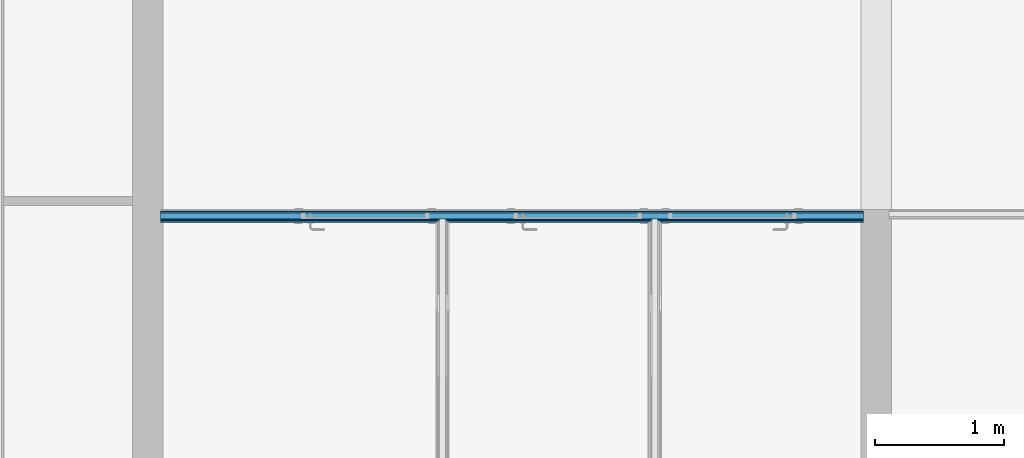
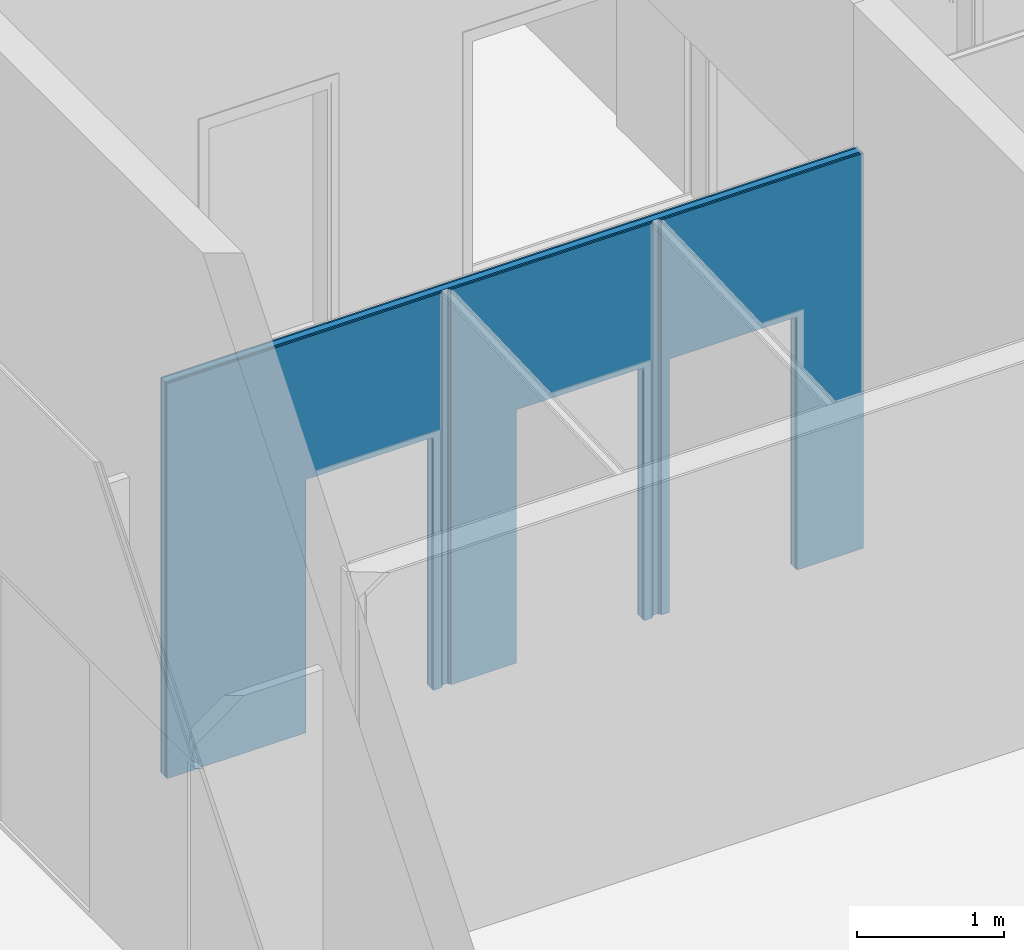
# One storey, part 14 of 34: 4 building element parts, 3 openings, 1 element without a shape of its own.
"""IFC2X3 building model written with IfcOpenShell, lengths in metres."""

from ifc_helpers import new_model, entity, si_unit, converted_unit, derived_unit, money_unit, direction, frame, origin_with_axes, origin_2d_with_axis, place, context, subcontext, project, spatial, polyline, rectangle, outline, extrude, boolean, faceted_brep, material, type_object, element, aggregate, save


model = new_model("IFC2X3")

# Units and contexts
model_context = context("Model", 3, precision=1e-05, world=origin_with_axes(), true_north=direction((0.0, 1.0)))
body_context = subcontext(model_context, "Body", "Model", "MODEL_VIEW")
ifc_project = project(units=[si_unit("LENGTHUNIT", "METRE"), si_unit("AREAUNIT", "SQUARE_METRE"), si_unit("VOLUMEUNIT", "CUBIC_METRE"), converted_unit("PLANEANGLEUNIT", "DEGREE", entity("IfcPlaneAngleMeasure", 0.0174532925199), si_unit("PLANEANGLEUNIT", "RADIAN"), dimensions=[0, 0, 0, 0, 0, 0, 0]), money_unit("CHF"), converted_unit("TIMEUNIT", "Year", entity("IfcTimeMeasure", 31556926.0), si_unit("TIMEUNIT", "SECOND"), dimensions=[0, 0, 1, 0, 0, 0, 0]), si_unit("MASSUNIT", "GRAM", prefix="KILO"), si_unit("THERMODYNAMICTEMPERATUREUNIT", "DEGREE_CELSIUS"), si_unit("LUMINOUSINTENSITYUNIT", "LUMEN"), si_unit("ENERGYUNIT", "JOULE", prefix="MEGA"), derived_unit("THERMALCONDUCTANCEUNIT", [(si_unit("POWERUNIT", "WATT"), 1), (si_unit("LENGTHUNIT", "METRE"), -1), (si_unit("THERMODYNAMICTEMPERATUREUNIT", "KELVIN"), -1)]), derived_unit("SPECIFICHEATCAPACITYUNIT", [(si_unit("ENERGYUNIT", "JOULE"), 1), (si_unit("MASSUNIT", "GRAM", prefix="KILO"), -1), (si_unit("THERMODYNAMICTEMPERATUREUNIT", "KELVIN"), -1)]), derived_unit("MASSDENSITYUNIT", [(si_unit("MASSUNIT", "GRAM", prefix="KILO"), 1), (si_unit("VOLUMEUNIT", "CUBIC_METRE"), -1)])], contexts=[model_context])

# Site, building, storey
site_placement = place(None, origin_with_axes())
site = spatial("IfcSite", under=ifc_project, at=site_placement, Name="Site", CompositionType="ELEMENT")
building_placement = place(site_placement, origin_with_axes())
building = spatial("IfcBuilding", under=site, at=building_placement, Name="Bâtiment", CompositionType="ELEMENT")
storey_placement = place(building_placement, origin_with_axes())
storey = spatial("IfcBuildingStorey", under=building, at=storey_placement, Name="Rez-de-chaussée", CompositionType="ELEMENT", Elevation=0.0)

# Wall, openings, building element parts
wall_type = type_object("IfcWallType", Name="Cloison 100/48 100", PredefinedType="NOTDEFINED")
wall_placement = place(storey_placement, frame((18.6894697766, 10.9801256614, 0.0), z_axis=(0.0, 0.0, 1.0), x_axis=(1.0, 0.0, 0.0)))
wall = element("IfcWall", 1, at=wall_placement, inside=storey, type_object=wall_type, Name="MUR_EXT-008")
opening_1_placement = place(wall_placement, frame((1.69, 0.0, 0.0), z_axis=(0.0, 0.0, 1.0), x_axis=(1.0, 0.0, 0.0)))
element("IfcOpeningElement", 2, at=opening_1_placement, cuts=wall, Name="PORTE-PP90 A2 - PF1/2H", context=body_context, shape_type="SweptSolid", body=[
    extrude(rectangle(XDim=1.0, YDim=2.1, at=origin_2d_with_axis()), frame((0.0, -0.1, 1.05), z_axis=(0.0, -1.0, 0.0), x_axis=(1.0, 0.0, 0.0)), (0.0, 0.0, -1.0), 0.3),
    extrude(rectangle(XDim=1.1, YDim=2.15, at=origin_2d_with_axis()), frame((0.0, -0.1, 1.075), z_axis=(0.0, -1.0, 0.0), x_axis=(1.0, 0.0, 0.0)), (0.0, 0.0, 1.0), 0.1),
    extrude(rectangle(XDim=1.09, YDim=2.145, at=origin_2d_with_axis()), frame((0.0, 0.0, 1.0725), z_axis=(0.0, 1.0, 0.0), x_axis=(1.0, 0.0, 0.0)), (0.0, 0.0, 1.0), 0.1),
])
opening_2_placement = place(wall_placement, frame((3.34, 0.0, 0.0), z_axis=(0.0, 0.0, 1.0), x_axis=(1.0, 0.0, 0.0)))
element("IfcOpeningElement", 3, at=opening_2_placement, cuts=wall, Name="PORTE-PP90 A2 - PF1/2H", context=body_context, shape_type="SweptSolid", body=[
    extrude(rectangle(XDim=1.0, YDim=2.1, at=origin_2d_with_axis()), frame((0.0, -0.1, 1.05), z_axis=(0.0, -1.0, 0.0), x_axis=(1.0, 0.0, 0.0)), (0.0, 0.0, -1.0), 0.3),
    extrude(rectangle(XDim=1.1, YDim=2.15, at=origin_2d_with_axis()), frame((0.0, -0.1, 1.075), z_axis=(0.0, -1.0, 0.0), x_axis=(1.0, 0.0, 0.0)), (0.0, 0.0, 1.0), 0.1),
    extrude(rectangle(XDim=1.09, YDim=2.145, at=origin_2d_with_axis()), frame((0.0, 0.0, 1.0725), z_axis=(0.0, 1.0, 0.0), x_axis=(1.0, 0.0, 0.0)), (0.0, 0.0, 1.0), 0.1),
])
opening_3_placement = place(wall_placement, frame((4.54, 0.0, 0.0), z_axis=(0.0, 0.0, 1.0), x_axis=(1.0, 0.0, 0.0)))
element("IfcOpeningElement", 4, at=opening_3_placement, cuts=wall, Name="PORTE-PP90 A2 - PF1/2H", context=body_context, shape_type="SweptSolid", body=[
    extrude(rectangle(XDim=1.0, YDim=2.1, at=origin_2d_with_axis()), frame((0.0, -0.1, 1.05), z_axis=(0.0, 1.0, 0.0), x_axis=(-1.0, 0.0, 0.0)), (0.0, 0.0, 1.0), 0.3),
    extrude(rectangle(XDim=1.1, YDim=2.15, at=origin_2d_with_axis()), frame((0.0, -0.1, 1.075), z_axis=(0.0, 1.0, 0.0), x_axis=(-1.0, 0.0, 0.0)), (0.0, 0.0, -1.0), 0.1),
    extrude(rectangle(XDim=1.09, YDim=2.145, at=origin_2d_with_axis()), frame((0.0, 0.0, 1.0725), z_axis=(0.0, -1.0, 0.0), x_axis=(-1.0, 0.0, 0.0)), (0.0, 0.0, -1.0), 0.1),
])
ifc_material_1 = material(Name="Finition int - Plaque de plâtre")
building_element_part_1_placement = place(wall_placement, origin_with_axes())
building_element_part_1 = element("IfcBuildingElementPart", 5, at=building_element_part_1_placement, material=ifc_material_1, Name="Finition int - Plaque de plâtre", context=body_context, shape_type="CSG", body=[
    boolean("DIFFERENCE", boolean("DIFFERENCE", boolean("DIFFERENCE", boolean("DIFFERENCE", boolean("DIFFERENCE", extrude(outline(polyline([(-0.12, -0.1), (5.78, -0.1), (5.78, -0.087), (-0.12, -0.087), (-0.12, -0.1)])), origin_with_axes(), (0.0, 0.0, 1.0), 3.32433501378), faceted_brep([(3.977, -0.087, 3.27475939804), (3.977, -0.087, 0.0), (3.903, -0.087, 0.0), (3.903, -0.087, 3.27475939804), (2.327, -0.087, 3.27475939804), (2.327, -0.087, 0.0), (2.253, -0.087, 0.0), (2.253, -0.087, 3.27475939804), (0.100000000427, -0.087, 3.27475939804), (0.1, -0.087, 0.0), (-0.12, -0.087, 0.0), (-0.12, -0.087, 3.32433501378), (5.78, -0.087, 3.32433501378), (5.78, -0.087, 0.0), (5.56, -0.087, 0.0), (5.56000000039, -0.087, 3.27475939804), (3.977, -0.1, 3.27430439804), (3.977, -0.1, 0.0), (3.903, -0.1, 0.0), (3.903, -0.1, 3.27430439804), (2.327, -0.1, 3.27430439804), (2.327, -0.1, 0.0), (2.253, -0.1, 0.0), (2.253, -0.1, 3.27430439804), (0.100000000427, -0.1, 3.27430439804), (0.1, -0.1, 0.0), (-0.12, -0.1, 0.0), (-0.12, -0.1, 3.32433501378), (5.78, -0.1, 3.32433501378), (5.78, -0.1, 0.0), (5.56, -0.1, 0.0), (5.56000000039, -0.1, 3.27430439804)], [[[0, 1, 2, 3, 4, 5, 6, 7, 8, 9, 10, 11, 12, 13, 14, 15]], [[1, 0, 16, 17]], [[1, 17, 18, 2]], [[3, 2, 18, 19]], [[4, 3, 19, 20]], [[5, 4, 20, 21]], [[5, 21, 22, 6]], [[7, 6, 22, 23]], [[8, 7, 23, 24]], [[9, 8, 24, 25]], [[9, 25, 26, 10]], [[11, 10, 26, 27]], [[11, 27, 28, 12]], [[28, 29, 13, 12]], [[30, 14, 13, 29]], [[15, 14, 30, 31]], [[0, 15, 31, 16]], [[31, 30, 29, 28, 27, 26, 25, 24, 23, 22, 21, 20, 19, 18, 17, 16]]])), faceted_brep([(3.964, -0.074, 3.27521439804), (3.964, -0.074, 0.0), (3.916, -0.074, 0.0), (3.916, -0.074, 3.27521439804), (2.314, -0.074, 3.27521439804), (2.314, -0.074, 0.0), (2.266, -0.074, 0.0), (2.266, -0.074, 3.27521439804), (0.100000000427, -0.074, 3.27521439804), (0.1, -0.074, 0.0), (-0.12, -0.074, 0.0), (-0.12, -0.074, 3.32433501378), (5.78, -0.074, 3.32433501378), (5.78, -0.074, 0.0), (5.56, -0.074, 0.0), (5.56000000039, -0.074, 3.27521439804), (3.964, -0.087, 3.27475939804), (3.964, -0.087, 0.0), (3.916, -0.087, 0.0), (3.916, -0.087, 3.27475939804), (3.903, -0.087, 3.27475939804), (2.327, -0.087, 3.27475939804), (2.314, -0.087, 3.27475939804), (2.314, -0.087, 0.0), (2.266, -0.087, 0.0), (2.266, -0.087, 3.27475939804), (2.253, -0.087, 3.27475939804), (0.100000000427, -0.087, 3.27475939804), (0.1, -0.087, 0.0), (-0.12, -0.087, 0.0), (-0.12, -0.087, 3.32433501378), (5.78, -0.087, 3.32433501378), (5.78, -0.087, 0.0), (5.56, -0.087, 0.0), (5.56000000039, -0.087, 3.27475939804), (3.977, -0.087, 3.27475939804)], [[[0, 1, 2, 3, 4, 5, 6, 7, 8, 9, 10, 11, 12, 13, 14, 15]], [[1, 0, 16, 17]], [[1, 17, 18, 2]], [[3, 2, 18, 19]], [[4, 3, 19, 20, 21, 22]], [[5, 4, 22, 23]], [[5, 23, 24, 6]], [[7, 6, 24, 25]], [[8, 7, 25, 26, 27]], [[28, 9, 8, 27]], [[9, 28, 29, 10]], [[11, 10, 29, 30]], [[11, 30, 31, 12]], [[31, 32, 13, 12]], [[33, 14, 13, 32]], [[14, 33, 34, 15]], [[0, 15, 34, 35, 16]], [[34, 33, 32, 31, 30, 29, 28, 27, 26, 25, 24, 23, 22, 21, 20, 19, 18, 17, 16, 35]]])), faceted_brep([(0.100000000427, -0.026, 3.27689439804), (0.1, -0.026, 0.0), (-0.12, -0.026, 0.0), (-0.12, -0.026, 3.32433501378), (5.78, -0.026, 3.32433501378), (5.78, -0.026, 0.0), (5.56, -0.026, 0.0), (5.56000000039, -0.026, 3.27689439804), (0.1, -0.074, 0.0), (0.100000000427, -0.074, 3.27521439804), (-0.12, -0.074, 0.0), (-0.12, -0.074, 3.32433501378), (5.78, -0.074, 3.32433501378), (5.78, -0.074, 0.0), (5.56, -0.074, 0.0), (5.56000000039, -0.074, 3.27521439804), (3.964, -0.074, 3.27521439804), (3.916, -0.074, 3.27521439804), (2.314, -0.074, 3.27521439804), (2.266, -0.074, 3.27521439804)], [[[0, 1, 2, 3, 4, 5, 6, 7]], [[8, 1, 0, 9]], [[1, 8, 10, 2]], [[3, 2, 10, 11]], [[3, 11, 12, 4]], [[12, 13, 5, 4]], [[14, 6, 5, 13]], [[6, 14, 15, 7]], [[0, 7, 15, 16, 17, 18, 19, 9]], [[15, 14, 13, 12, 11, 10, 8, 9, 19, 18, 17, 16]]])), faceted_brep([(0.100000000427, -0.013, 3.27734939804), (0.1, -0.013, 0.0), (-0.12, -0.013, 0.0), (-0.12, -0.013, 3.32433501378), (5.78, -0.013, 3.32433501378), (5.78, -0.013, 0.0), (5.56, -0.013, 0.0), (5.56000000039, -0.013, 3.27734939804), (0.100000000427, -0.026, 3.27689439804), (0.1, -0.026, 0.0), (-0.12, -0.026, 0.0), (-0.12, -0.026, 3.32433501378), (5.78, -0.026, 3.32433501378), (5.78, -0.026, 0.0), (5.56, -0.026, 0.0), (5.56000000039, -0.026, 3.27689439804)], [[[0, 1, 2, 3, 4, 5, 6, 7]], [[1, 0, 8, 9]], [[1, 9, 10, 2]], [[3, 2, 10, 11]], [[3, 11, 12, 4]], [[12, 13, 5, 4]], [[14, 6, 5, 13]], [[7, 6, 14, 15]], [[0, 7, 15, 8]], [[15, 14, 13, 12, 11, 10, 9, 8]]])), faceted_brep([(0.100000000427, 0.0, 3.27780439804), (0.1, 0.0, 0.0), (-0.12, 0.0, 0.0), (-0.12, 0.0, 3.32433501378), (5.78, 0.0, 3.32433501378), (5.78, 0.0, 0.0), (5.56, 0.0, 0.0), (5.56000000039, 0.0, 3.27780439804), (0.100000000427, -0.013, 3.27734939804), (0.1, -0.013, 0.0), (-0.12, -0.013, 0.0), (-0.12, -0.013, 3.32433501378), (5.78, -0.013, 3.32433501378), (5.78, -0.013, 0.0), (5.56, -0.013, 0.0), (5.56000000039, -0.013, 3.27734939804)], [[[0, 1, 2, 3, 4, 5, 6, 7]], [[1, 0, 8, 9]], [[1, 9, 10, 2]], [[3, 2, 10, 11]], [[3, 11, 12, 4]], [[12, 13, 5, 4]], [[14, 6, 5, 13]], [[7, 6, 14, 15]], [[0, 7, 15, 8]], [[15, 14, 13, 12, 11, 10, 9, 8]]])),
])
building_element_part_2_placement = place(wall_placement, origin_with_axes())
building_element_part_2 = element("IfcBuildingElementPart", 6, at=building_element_part_2_placement, material=ifc_material_1, Name="Finition int - Plaque de plâtre", context=body_context, shape_type="CSG", body=[
    boolean("DIFFERENCE", boolean("DIFFERENCE", boolean("DIFFERENCE", boolean("DIFFERENCE", boolean("DIFFERENCE", extrude(outline(polyline([(-0.12, -0.087), (5.78, -0.087), (5.78, -0.074), (-0.12, -0.074), (-0.12, -0.087)])), origin_with_axes(), (0.0, 0.0, 1.0), 3.32433501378), faceted_brep([(3.977, -0.087, 3.27475939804), (3.977, -0.087, 0.0), (3.903, -0.087, 0.0), (3.903, -0.087, 3.27475939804), (2.327, -0.087, 3.27475939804), (2.327, -0.087, 0.0), (2.253, -0.087, 0.0), (2.253, -0.087, 3.27475939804), (0.100000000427, -0.087, 3.27475939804), (0.1, -0.087, 0.0), (-0.12, -0.087, 0.0), (-0.12, -0.087, 3.32433501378), (5.78, -0.087, 3.32433501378), (5.78, -0.087, 0.0), (5.56, -0.087, 0.0), (5.56000000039, -0.087, 3.27475939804), (3.977, -0.1, 3.27430439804), (3.977, -0.1, 0.0), (3.903, -0.1, 0.0), (3.903, -0.1, 3.27430439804), (2.327, -0.1, 3.27430439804), (2.327, -0.1, 0.0), (2.253, -0.1, 0.0), (2.253, -0.1, 3.27430439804), (0.100000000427, -0.1, 3.27430439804), (0.1, -0.1, 0.0), (-0.12, -0.1, 0.0), (-0.12, -0.1, 3.32433501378), (5.78, -0.1, 3.32433501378), (5.78, -0.1, 0.0), (5.56, -0.1, 0.0), (5.56000000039, -0.1, 3.27430439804)], [[[0, 1, 2, 3, 4, 5, 6, 7, 8, 9, 10, 11, 12, 13, 14, 15]], [[1, 0, 16, 17]], [[1, 17, 18, 2]], [[3, 2, 18, 19]], [[4, 3, 19, 20]], [[5, 4, 20, 21]], [[5, 21, 22, 6]], [[7, 6, 22, 23]], [[8, 7, 23, 24]], [[9, 8, 24, 25]], [[9, 25, 26, 10]], [[11, 10, 26, 27]], [[11, 27, 28, 12]], [[28, 29, 13, 12]], [[30, 14, 13, 29]], [[15, 14, 30, 31]], [[0, 15, 31, 16]], [[31, 30, 29, 28, 27, 26, 25, 24, 23, 22, 21, 20, 19, 18, 17, 16]]])), faceted_brep([(3.964, -0.074, 3.27521439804), (3.964, -0.074, 0.0), (3.916, -0.074, 0.0), (3.916, -0.074, 3.27521439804), (2.314, -0.074, 3.27521439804), (2.314, -0.074, 0.0), (2.266, -0.074, 0.0), (2.266, -0.074, 3.27521439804), (0.100000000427, -0.074, 3.27521439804), (0.1, -0.074, 0.0), (-0.12, -0.074, 0.0), (-0.12, -0.074, 3.32433501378), (5.78, -0.074, 3.32433501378), (5.78, -0.074, 0.0), (5.56, -0.074, 0.0), (5.56000000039, -0.074, 3.27521439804), (3.964, -0.087, 3.27475939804), (3.964, -0.087, 0.0), (3.916, -0.087, 0.0), (3.916, -0.087, 3.27475939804), (3.903, -0.087, 3.27475939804), (2.327, -0.087, 3.27475939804), (2.314, -0.087, 3.27475939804), (2.314, -0.087, 0.0), (2.266, -0.087, 0.0), (2.266, -0.087, 3.27475939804), (2.253, -0.087, 3.27475939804), (0.100000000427, -0.087, 3.27475939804), (0.1, -0.087, 0.0), (-0.12, -0.087, 0.0), (-0.12, -0.087, 3.32433501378), (5.78, -0.087, 3.32433501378), (5.78, -0.087, 0.0), (5.56, -0.087, 0.0), (5.56000000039, -0.087, 3.27475939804), (3.977, -0.087, 3.27475939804)], [[[0, 1, 2, 3, 4, 5, 6, 7, 8, 9, 10, 11, 12, 13, 14, 15]], [[1, 0, 16, 17]], [[1, 17, 18, 2]], [[3, 2, 18, 19]], [[4, 3, 19, 20, 21, 22]], [[5, 4, 22, 23]], [[5, 23, 24, 6]], [[7, 6, 24, 25]], [[8, 7, 25, 26, 27]], [[28, 9, 8, 27]], [[9, 28, 29, 10]], [[11, 10, 29, 30]], [[11, 30, 31, 12]], [[31, 32, 13, 12]], [[33, 14, 13, 32]], [[14, 33, 34, 15]], [[0, 15, 34, 35, 16]], [[34, 33, 32, 31, 30, 29, 28, 27, 26, 25, 24, 23, 22, 21, 20, 19, 18, 17, 16, 35]]])), faceted_brep([(0.100000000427, -0.026, 3.27689439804), (0.1, -0.026, 0.0), (-0.12, -0.026, 0.0), (-0.12, -0.026, 3.32433501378), (5.78, -0.026, 3.32433501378), (5.78, -0.026, 0.0), (5.56, -0.026, 0.0), (5.56000000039, -0.026, 3.27689439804), (0.1, -0.074, 0.0), (0.100000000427, -0.074, 3.27521439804), (-0.12, -0.074, 0.0), (-0.12, -0.074, 3.32433501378), (5.78, -0.074, 3.32433501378), (5.78, -0.074, 0.0), (5.56, -0.074, 0.0), (5.56000000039, -0.074, 3.27521439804), (3.964, -0.074, 3.27521439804), (3.916, -0.074, 3.27521439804), (2.314, -0.074, 3.27521439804), (2.266, -0.074, 3.27521439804)], [[[0, 1, 2, 3, 4, 5, 6, 7]], [[8, 1, 0, 9]], [[1, 8, 10, 2]], [[3, 2, 10, 11]], [[3, 11, 12, 4]], [[12, 13, 5, 4]], [[14, 6, 5, 13]], [[6, 14, 15, 7]], [[0, 7, 15, 16, 17, 18, 19, 9]], [[15, 14, 13, 12, 11, 10, 8, 9, 19, 18, 17, 16]]])), faceted_brep([(0.100000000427, -0.013, 3.27734939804), (0.1, -0.013, 0.0), (-0.12, -0.013, 0.0), (-0.12, -0.013, 3.32433501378), (5.78, -0.013, 3.32433501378), (5.78, -0.013, 0.0), (5.56, -0.013, 0.0), (5.56000000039, -0.013, 3.27734939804), (0.100000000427, -0.026, 3.27689439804), (0.1, -0.026, 0.0), (-0.12, -0.026, 0.0), (-0.12, -0.026, 3.32433501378), (5.78, -0.026, 3.32433501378), (5.78, -0.026, 0.0), (5.56, -0.026, 0.0), (5.56000000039, -0.026, 3.27689439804)], [[[0, 1, 2, 3, 4, 5, 6, 7]], [[1, 0, 8, 9]], [[1, 9, 10, 2]], [[3, 2, 10, 11]], [[3, 11, 12, 4]], [[12, 13, 5, 4]], [[14, 6, 5, 13]], [[7, 6, 14, 15]], [[0, 7, 15, 8]], [[15, 14, 13, 12, 11, 10, 9, 8]]])), faceted_brep([(0.100000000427, 0.0, 3.27780439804), (0.1, 0.0, 0.0), (-0.12, 0.0, 0.0), (-0.12, 0.0, 3.32433501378), (5.78, 0.0, 3.32433501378), (5.78, 0.0, 0.0), (5.56, 0.0, 0.0), (5.56000000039, 0.0, 3.27780439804), (0.100000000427, -0.013, 3.27734939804), (0.1, -0.013, 0.0), (-0.12, -0.013, 0.0), (-0.12, -0.013, 3.32433501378), (5.78, -0.013, 3.32433501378), (5.78, -0.013, 0.0), (5.56, -0.013, 0.0), (5.56000000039, -0.013, 3.27734939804)], [[[0, 1, 2, 3, 4, 5, 6, 7]], [[1, 0, 8, 9]], [[1, 9, 10, 2]], [[3, 2, 10, 11]], [[3, 11, 12, 4]], [[12, 13, 5, 4]], [[14, 6, 5, 13]], [[7, 6, 14, 15]], [[0, 7, 15, 8]], [[15, 14, 13, 12, 11, 10, 9, 8]]])),
])
ifc_material_2 = material(Name="Isolation - Laine de verre")
building_element_part_3_placement = place(wall_placement, origin_with_axes())
building_element_part_3 = element("IfcBuildingElementPart", 7, at=building_element_part_3_placement, material=ifc_material_2, Name="Isolation - Laine de verre", context=body_context, shape_type="CSG", body=[
    boolean("DIFFERENCE", boolean("DIFFERENCE", boolean("DIFFERENCE", boolean("DIFFERENCE", boolean("DIFFERENCE", extrude(outline(polyline([(-0.12, -0.074), (5.78, -0.074), (5.78, -0.026), (-0.12, -0.026), (-0.12, -0.074)])), origin_with_axes(), (0.0, 0.0, 1.0), 3.32433501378), faceted_brep([(3.977, -0.087, 3.27475939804), (3.977, -0.087, 0.0), (3.903, -0.087, 0.0), (3.903, -0.087, 3.27475939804), (2.327, -0.087, 3.27475939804), (2.327, -0.087, 0.0), (2.253, -0.087, 0.0), (2.253, -0.087, 3.27475939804), (0.100000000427, -0.087, 3.27475939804), (0.1, -0.087, 0.0), (-0.12, -0.087, 0.0), (-0.12, -0.087, 3.32433501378), (5.78, -0.087, 3.32433501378), (5.78, -0.087, 0.0), (5.56, -0.087, 0.0), (5.56000000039, -0.087, 3.27475939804), (3.977, -0.1, 3.27430439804), (3.977, -0.1, 0.0), (3.903, -0.1, 0.0), (3.903, -0.1, 3.27430439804), (2.327, -0.1, 3.27430439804), (2.327, -0.1, 0.0), (2.253, -0.1, 0.0), (2.253, -0.1, 3.27430439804), (0.100000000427, -0.1, 3.27430439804), (0.1, -0.1, 0.0), (-0.12, -0.1, 0.0), (-0.12, -0.1, 3.32433501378), (5.78, -0.1, 3.32433501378), (5.78, -0.1, 0.0), (5.56, -0.1, 0.0), (5.56000000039, -0.1, 3.27430439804)], [[[0, 1, 2, 3, 4, 5, 6, 7, 8, 9, 10, 11, 12, 13, 14, 15]], [[1, 0, 16, 17]], [[1, 17, 18, 2]], [[3, 2, 18, 19]], [[4, 3, 19, 20]], [[5, 4, 20, 21]], [[5, 21, 22, 6]], [[7, 6, 22, 23]], [[8, 7, 23, 24]], [[9, 8, 24, 25]], [[9, 25, 26, 10]], [[11, 10, 26, 27]], [[11, 27, 28, 12]], [[28, 29, 13, 12]], [[30, 14, 13, 29]], [[15, 14, 30, 31]], [[0, 15, 31, 16]], [[31, 30, 29, 28, 27, 26, 25, 24, 23, 22, 21, 20, 19, 18, 17, 16]]])), faceted_brep([(3.964, -0.074, 3.27521439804), (3.964, -0.074, 0.0), (3.916, -0.074, 0.0), (3.916, -0.074, 3.27521439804), (2.314, -0.074, 3.27521439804), (2.314, -0.074, 0.0), (2.266, -0.074, 0.0), (2.266, -0.074, 3.27521439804), (0.100000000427, -0.074, 3.27521439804), (0.1, -0.074, 0.0), (-0.12, -0.074, 0.0), (-0.12, -0.074, 3.32433501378), (5.78, -0.074, 3.32433501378), (5.78, -0.074, 0.0), (5.56, -0.074, 0.0), (5.56000000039, -0.074, 3.27521439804), (3.964, -0.087, 3.27475939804), (3.964, -0.087, 0.0), (3.916, -0.087, 0.0), (3.916, -0.087, 3.27475939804), (3.903, -0.087, 3.27475939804), (2.327, -0.087, 3.27475939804), (2.314, -0.087, 3.27475939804), (2.314, -0.087, 0.0), (2.266, -0.087, 0.0), (2.266, -0.087, 3.27475939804), (2.253, -0.087, 3.27475939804), (0.100000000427, -0.087, 3.27475939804), (0.1, -0.087, 0.0), (-0.12, -0.087, 0.0), (-0.12, -0.087, 3.32433501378), (5.78, -0.087, 3.32433501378), (5.78, -0.087, 0.0), (5.56, -0.087, 0.0), (5.56000000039, -0.087, 3.27475939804), (3.977, -0.087, 3.27475939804)], [[[0, 1, 2, 3, 4, 5, 6, 7, 8, 9, 10, 11, 12, 13, 14, 15]], [[1, 0, 16, 17]], [[1, 17, 18, 2]], [[3, 2, 18, 19]], [[4, 3, 19, 20, 21, 22]], [[5, 4, 22, 23]], [[5, 23, 24, 6]], [[7, 6, 24, 25]], [[8, 7, 25, 26, 27]], [[28, 9, 8, 27]], [[9, 28, 29, 10]], [[11, 10, 29, 30]], [[11, 30, 31, 12]], [[31, 32, 13, 12]], [[33, 14, 13, 32]], [[14, 33, 34, 15]], [[0, 15, 34, 35, 16]], [[34, 33, 32, 31, 30, 29, 28, 27, 26, 25, 24, 23, 22, 21, 20, 19, 18, 17, 16, 35]]])), faceted_brep([(0.100000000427, -0.026, 3.27689439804), (0.1, -0.026, 0.0), (-0.12, -0.026, 0.0), (-0.12, -0.026, 3.32433501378), (5.78, -0.026, 3.32433501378), (5.78, -0.026, 0.0), (5.56, -0.026, 0.0), (5.56000000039, -0.026, 3.27689439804), (0.1, -0.074, 0.0), (0.100000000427, -0.074, 3.27521439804), (-0.12, -0.074, 0.0), (-0.12, -0.074, 3.32433501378), (5.78, -0.074, 3.32433501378), (5.78, -0.074, 0.0), (5.56, -0.074, 0.0), (5.56000000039, -0.074, 3.27521439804), (3.964, -0.074, 3.27521439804), (3.916, -0.074, 3.27521439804), (2.314, -0.074, 3.27521439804), (2.266, -0.074, 3.27521439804)], [[[0, 1, 2, 3, 4, 5, 6, 7]], [[8, 1, 0, 9]], [[1, 8, 10, 2]], [[3, 2, 10, 11]], [[3, 11, 12, 4]], [[12, 13, 5, 4]], [[14, 6, 5, 13]], [[6, 14, 15, 7]], [[0, 7, 15, 16, 17, 18, 19, 9]], [[15, 14, 13, 12, 11, 10, 8, 9, 19, 18, 17, 16]]])), faceted_brep([(0.100000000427, -0.013, 3.27734939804), (0.1, -0.013, 0.0), (-0.12, -0.013, 0.0), (-0.12, -0.013, 3.32433501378), (5.78, -0.013, 3.32433501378), (5.78, -0.013, 0.0), (5.56, -0.013, 0.0), (5.56000000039, -0.013, 3.27734939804), (0.100000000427, -0.026, 3.27689439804), (0.1, -0.026, 0.0), (-0.12, -0.026, 0.0), (-0.12, -0.026, 3.32433501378), (5.78, -0.026, 3.32433501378), (5.78, -0.026, 0.0), (5.56, -0.026, 0.0), (5.56000000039, -0.026, 3.27689439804)], [[[0, 1, 2, 3, 4, 5, 6, 7]], [[1, 0, 8, 9]], [[1, 9, 10, 2]], [[3, 2, 10, 11]], [[3, 11, 12, 4]], [[12, 13, 5, 4]], [[14, 6, 5, 13]], [[7, 6, 14, 15]], [[0, 7, 15, 8]], [[15, 14, 13, 12, 11, 10, 9, 8]]])), faceted_brep([(0.100000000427, 0.0, 3.27780439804), (0.1, 0.0, 0.0), (-0.12, 0.0, 0.0), (-0.12, 0.0, 3.32433501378), (5.78, 0.0, 3.32433501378), (5.78, 0.0, 0.0), (5.56, 0.0, 0.0), (5.56000000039, 0.0, 3.27780439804), (0.100000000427, -0.013, 3.27734939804), (0.1, -0.013, 0.0), (-0.12, -0.013, 0.0), (-0.12, -0.013, 3.32433501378), (5.78, -0.013, 3.32433501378), (5.78, -0.013, 0.0), (5.56, -0.013, 0.0), (5.56000000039, -0.013, 3.27734939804)], [[[0, 1, 2, 3, 4, 5, 6, 7]], [[1, 0, 8, 9]], [[1, 9, 10, 2]], [[3, 2, 10, 11]], [[3, 11, 12, 4]], [[12, 13, 5, 4]], [[14, 6, 5, 13]], [[7, 6, 14, 15]], [[0, 7, 15, 8]], [[15, 14, 13, 12, 11, 10, 9, 8]]])),
])
building_element_part_4_placement = place(wall_placement, origin_with_axes())
building_element_part_4 = element("IfcBuildingElementPart", 8, at=building_element_part_4_placement, material=ifc_material_1, Name="Finition int - Plaque de plâtre", context=body_context, shape_type="CSG", body=[
    boolean("DIFFERENCE", boolean("DIFFERENCE", boolean("DIFFERENCE", boolean("DIFFERENCE", boolean("DIFFERENCE", extrude(outline(polyline([(-0.12, -0.026), (5.78, -0.026), (5.78, -0.013), (-0.12, -0.013), (-0.12, -0.026)])), origin_with_axes(), (0.0, 0.0, 1.0), 3.32433501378), faceted_brep([(3.977, -0.087, 3.27475939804), (3.977, -0.087, 0.0), (3.903, -0.087, 0.0), (3.903, -0.087, 3.27475939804), (2.327, -0.087, 3.27475939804), (2.327, -0.087, 0.0), (2.253, -0.087, 0.0), (2.253, -0.087, 3.27475939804), (0.100000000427, -0.087, 3.27475939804), (0.1, -0.087, 0.0), (-0.12, -0.087, 0.0), (-0.12, -0.087, 3.32433501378), (5.78, -0.087, 3.32433501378), (5.78, -0.087, 0.0), (5.56, -0.087, 0.0), (5.56000000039, -0.087, 3.27475939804), (3.977, -0.1, 3.27430439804), (3.977, -0.1, 0.0), (3.903, -0.1, 0.0), (3.903, -0.1, 3.27430439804), (2.327, -0.1, 3.27430439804), (2.327, -0.1, 0.0), (2.253, -0.1, 0.0), (2.253, -0.1, 3.27430439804), (0.100000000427, -0.1, 3.27430439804), (0.1, -0.1, 0.0), (-0.12, -0.1, 0.0), (-0.12, -0.1, 3.32433501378), (5.78, -0.1, 3.32433501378), (5.78, -0.1, 0.0), (5.56, -0.1, 0.0), (5.56000000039, -0.1, 3.27430439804)], [[[0, 1, 2, 3, 4, 5, 6, 7, 8, 9, 10, 11, 12, 13, 14, 15]], [[1, 0, 16, 17]], [[1, 17, 18, 2]], [[3, 2, 18, 19]], [[4, 3, 19, 20]], [[5, 4, 20, 21]], [[5, 21, 22, 6]], [[7, 6, 22, 23]], [[8, 7, 23, 24]], [[9, 8, 24, 25]], [[9, 25, 26, 10]], [[11, 10, 26, 27]], [[11, 27, 28, 12]], [[28, 29, 13, 12]], [[30, 14, 13, 29]], [[15, 14, 30, 31]], [[0, 15, 31, 16]], [[31, 30, 29, 28, 27, 26, 25, 24, 23, 22, 21, 20, 19, 18, 17, 16]]])), faceted_brep([(3.964, -0.074, 3.27521439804), (3.964, -0.074, 0.0), (3.916, -0.074, 0.0), (3.916, -0.074, 3.27521439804), (2.314, -0.074, 3.27521439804), (2.314, -0.074, 0.0), (2.266, -0.074, 0.0), (2.266, -0.074, 3.27521439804), (0.100000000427, -0.074, 3.27521439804), (0.1, -0.074, 0.0), (-0.12, -0.074, 0.0), (-0.12, -0.074, 3.32433501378), (5.78, -0.074, 3.32433501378), (5.78, -0.074, 0.0), (5.56, -0.074, 0.0), (5.56000000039, -0.074, 3.27521439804), (3.964, -0.087, 3.27475939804), (3.964, -0.087, 0.0), (3.916, -0.087, 0.0), (3.916, -0.087, 3.27475939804), (3.903, -0.087, 3.27475939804), (2.327, -0.087, 3.27475939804), (2.314, -0.087, 3.27475939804), (2.314, -0.087, 0.0), (2.266, -0.087, 0.0), (2.266, -0.087, 3.27475939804), (2.253, -0.087, 3.27475939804), (0.100000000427, -0.087, 3.27475939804), (0.1, -0.087, 0.0), (-0.12, -0.087, 0.0), (-0.12, -0.087, 3.32433501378), (5.78, -0.087, 3.32433501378), (5.78, -0.087, 0.0), (5.56, -0.087, 0.0), (5.56000000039, -0.087, 3.27475939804), (3.977, -0.087, 3.27475939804)], [[[0, 1, 2, 3, 4, 5, 6, 7, 8, 9, 10, 11, 12, 13, 14, 15]], [[1, 0, 16, 17]], [[1, 17, 18, 2]], [[3, 2, 18, 19]], [[4, 3, 19, 20, 21, 22]], [[5, 4, 22, 23]], [[5, 23, 24, 6]], [[7, 6, 24, 25]], [[8, 7, 25, 26, 27]], [[28, 9, 8, 27]], [[9, 28, 29, 10]], [[11, 10, 29, 30]], [[11, 30, 31, 12]], [[31, 32, 13, 12]], [[33, 14, 13, 32]], [[14, 33, 34, 15]], [[0, 15, 34, 35, 16]], [[34, 33, 32, 31, 30, 29, 28, 27, 26, 25, 24, 23, 22, 21, 20, 19, 18, 17, 16, 35]]])), faceted_brep([(0.100000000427, -0.026, 3.27689439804), (0.1, -0.026, 0.0), (-0.12, -0.026, 0.0), (-0.12, -0.026, 3.32433501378), (5.78, -0.026, 3.32433501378), (5.78, -0.026, 0.0), (5.56, -0.026, 0.0), (5.56000000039, -0.026, 3.27689439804), (0.1, -0.074, 0.0), (0.100000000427, -0.074, 3.27521439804), (-0.12, -0.074, 0.0), (-0.12, -0.074, 3.32433501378), (5.78, -0.074, 3.32433501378), (5.78, -0.074, 0.0), (5.56, -0.074, 0.0), (5.56000000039, -0.074, 3.27521439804), (3.964, -0.074, 3.27521439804), (3.916, -0.074, 3.27521439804), (2.314, -0.074, 3.27521439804), (2.266, -0.074, 3.27521439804)], [[[0, 1, 2, 3, 4, 5, 6, 7]], [[8, 1, 0, 9]], [[1, 8, 10, 2]], [[3, 2, 10, 11]], [[3, 11, 12, 4]], [[12, 13, 5, 4]], [[14, 6, 5, 13]], [[6, 14, 15, 7]], [[0, 7, 15, 16, 17, 18, 19, 9]], [[15, 14, 13, 12, 11, 10, 8, 9, 19, 18, 17, 16]]])), faceted_brep([(0.100000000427, -0.013, 3.27734939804), (0.1, -0.013, 0.0), (-0.12, -0.013, 0.0), (-0.12, -0.013, 3.32433501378), (5.78, -0.013, 3.32433501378), (5.78, -0.013, 0.0), (5.56, -0.013, 0.0), (5.56000000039, -0.013, 3.27734939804), (0.100000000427, -0.026, 3.27689439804), (0.1, -0.026, 0.0), (-0.12, -0.026, 0.0), (-0.12, -0.026, 3.32433501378), (5.78, -0.026, 3.32433501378), (5.78, -0.026, 0.0), (5.56, -0.026, 0.0), (5.56000000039, -0.026, 3.27689439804)], [[[0, 1, 2, 3, 4, 5, 6, 7]], [[1, 0, 8, 9]], [[1, 9, 10, 2]], [[3, 2, 10, 11]], [[3, 11, 12, 4]], [[12, 13, 5, 4]], [[14, 6, 5, 13]], [[7, 6, 14, 15]], [[0, 7, 15, 8]], [[15, 14, 13, 12, 11, 10, 9, 8]]])), faceted_brep([(0.100000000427, 0.0, 3.27780439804), (0.1, 0.0, 0.0), (-0.12, 0.0, 0.0), (-0.12, 0.0, 3.32433501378), (5.78, 0.0, 3.32433501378), (5.78, 0.0, 0.0), (5.56, 0.0, 0.0), (5.56000000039, 0.0, 3.27780439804), (0.100000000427, -0.013, 3.27734939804), (0.1, -0.013, 0.0), (-0.12, -0.013, 0.0), (-0.12, -0.013, 3.32433501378), (5.78, -0.013, 3.32433501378), (5.78, -0.013, 0.0), (5.56, -0.013, 0.0), (5.56000000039, -0.013, 3.27734939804)], [[[0, 1, 2, 3, 4, 5, 6, 7]], [[1, 0, 8, 9]], [[1, 9, 10, 2]], [[3, 2, 10, 11]], [[3, 11, 12, 4]], [[12, 13, 5, 4]], [[14, 6, 5, 13]], [[7, 6, 14, 15]], [[0, 7, 15, 8]], [[15, 14, 13, 12, 11, 10, 9, 8]]])),
])
aggregate(wall, [building_element_part_1, building_element_part_2, building_element_part_3, building_element_part_4])

save(model, "model.ifc")
